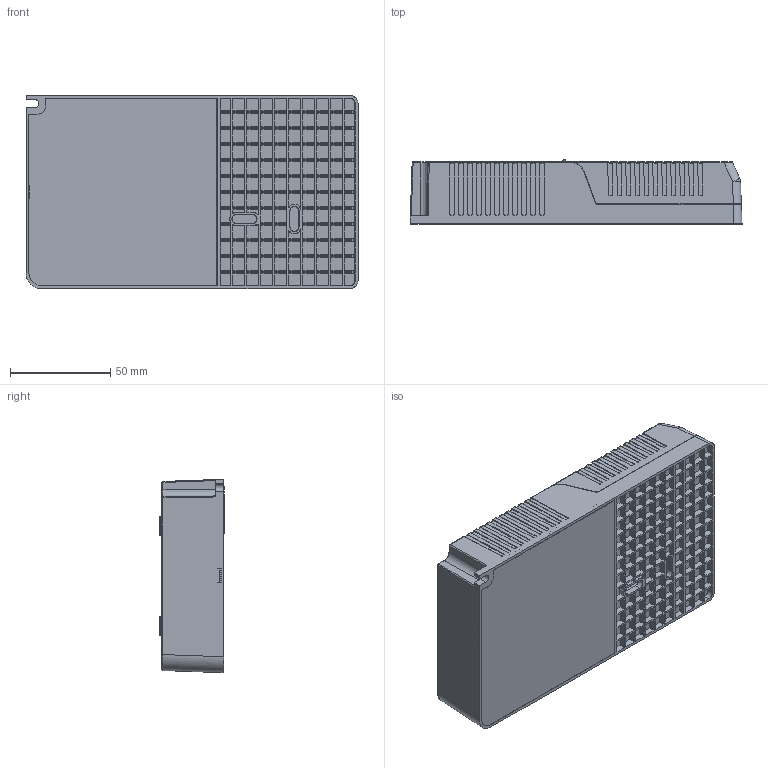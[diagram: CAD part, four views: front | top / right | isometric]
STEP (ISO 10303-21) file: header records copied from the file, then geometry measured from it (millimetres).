
FILE_DESCRIPTION((''),'2;1');
FILE_NAME('44W_ASM','2024-08-16T',('zhiming.li'),(''),'CREO PARAMETRIC BY PTC INC, 2018220','CREO PARAMETRIC BY PTC INC, 2018220','');
FILE_SCHEMA(('CONFIG_CONTROL_DESIGN'));
Products named in the file (21): D009658_CHASSIS_B; COPY__2__OF__D009649_HELVAR_ONE; D009659_COVER_B; PCB; PRT0002; 3_2; 2_1; 1_1; GH2062-5P_ASM_1_ASM; GH2062-5P_ASM_ASM; CM-250-3_5-4A_1; 01_1; 02_AF0_1_1; 02_AF0_1_2; 02_AF0_1_ASM; PRT0001_AF0_1_1; PRT0001_AF0_1_2; PRT0001_AF0_1_ASM; CM_250_ASM_1_ASM; CM_250_ASM_ASM; 44W_ASM
Assembly tree (22 placements, depth 5):
  44W_ASM
    D009658_CHASSIS_B
    COPY__2__OF__D009649_HELVAR_ONE
    D009659_COVER_B
    PCB
    PRT0002  x3
    GH2062-5P_ASM_ASM
      GH2062-5P_ASM_1_ASM
        3_2
        2_1
        1_1
    CM_250_ASM_ASM
      CM_250_ASM_1_ASM
        CM-250-3_5-4A_1
        01_1
        02_AF0_1_ASM
          02_AF0_1_1
          02_AF0_1_2
        PRT0001_AF0_1_ASM
          PRT0001_AF0_1_1
          PRT0001_AF0_1_2
Bounding box: 166 x 32 x 96.7 mm (x, y, z)
Volume: 96556.8 mm3; surface area: 144609.1 mm2
Topology: 15 solids, 43 shells, 5381 faces, 14795 edges, 9726 vertices
Faces by surface type: plane 3546, cylinder 1086, extrusion 367, cone 238, torus 72, bspline 64, sphere 8
Entity records: 169636 total; most frequent: CARTESIAN_POINT 41402, ORIENTED_EDGE 27850, DIRECTION 23791, EDGE_CURVE 13925, VECTOR 10873, LINE 10506, VERTEX_POINT 9158, AXIS2_PLACEMENT_3D 6459
